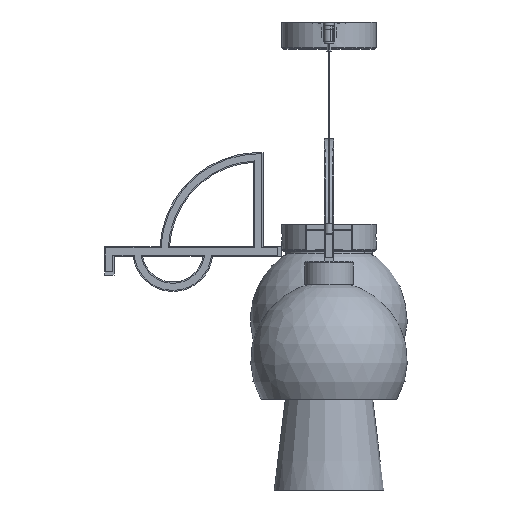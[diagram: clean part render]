
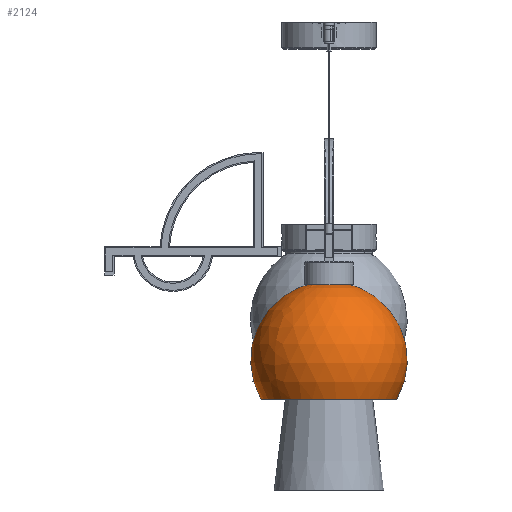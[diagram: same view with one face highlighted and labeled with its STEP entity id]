
A CAD part, front view. The second image highlights one B-rep face of the part: STEP entity #2124.
In plain terms, the highlighted spherical face has radius 100 mm.
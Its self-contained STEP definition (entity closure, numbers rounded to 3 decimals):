
#2124 = ADVANCED_FACE( '', ( #3775, #3776 ), #3777, .T. );
#3775 = FACE_OUTER_BOUND( '', #6788, .T. );
#3776 = FACE_OUTER_BOUND( '', #6789, .T. );
#3777 = SPHERICAL_SURFACE( '', #6790, 100. );
#6788 = EDGE_LOOP( '', ( #9942 ) );
#6789 = EDGE_LOOP( '', ( #9943 ) );
#6790 = AXIS2_PLACEMENT_3D( '', #9944, #9945, #9946 );
#9942 = ORIENTED_EDGE( '', *, *, #13097, .F. );
#9943 = ORIENTED_EDGE( '', *, *, #13098, .F. );
#9944 = CARTESIAN_POINT( '', ( 0., 0., -87. ) );
#9945 = DIRECTION( '', ( 0., 0., -1. ) );
#9946 = DIRECTION( '', ( -1., 0., 0. ) );
#13097 = EDGE_CURVE( '', #14933, #14933, #14934, .F. );
#13098 = EDGE_CURVE( '', #14935, #14935, #14936, .T. );
#14933 = VERTEX_POINT( '', #18735 );
#14934 = CIRCLE( '', #18736, 15.5 );
#14935 = VERTEX_POINT( '', #18737 );
#14936 = CIRCLE( '', #18738, 86.603 );
#18735 = CARTESIAN_POINT( '', ( -15.5, 0., 11.791 ) );
#18736 = AXIS2_PLACEMENT_3D( '', #21257, #21258, #21259 );
#18737 = CARTESIAN_POINT( '', ( -86.603, 0., -137. ) );
#18738 = AXIS2_PLACEMENT_3D( '', #21260, #21261, #21262 );
#21257 = CARTESIAN_POINT( '', ( 0., 0., 11.791 ) );
#21258 = DIRECTION( '', ( 0., 0., -1. ) );
#21259 = DIRECTION( '', ( -1., 0., 0. ) );
#21260 = CARTESIAN_POINT( '', ( 0., 0., -137. ) );
#21261 = DIRECTION( '', ( 0., 0., -1. ) );
#21262 = DIRECTION( '', ( -1., 0., 0. ) );
